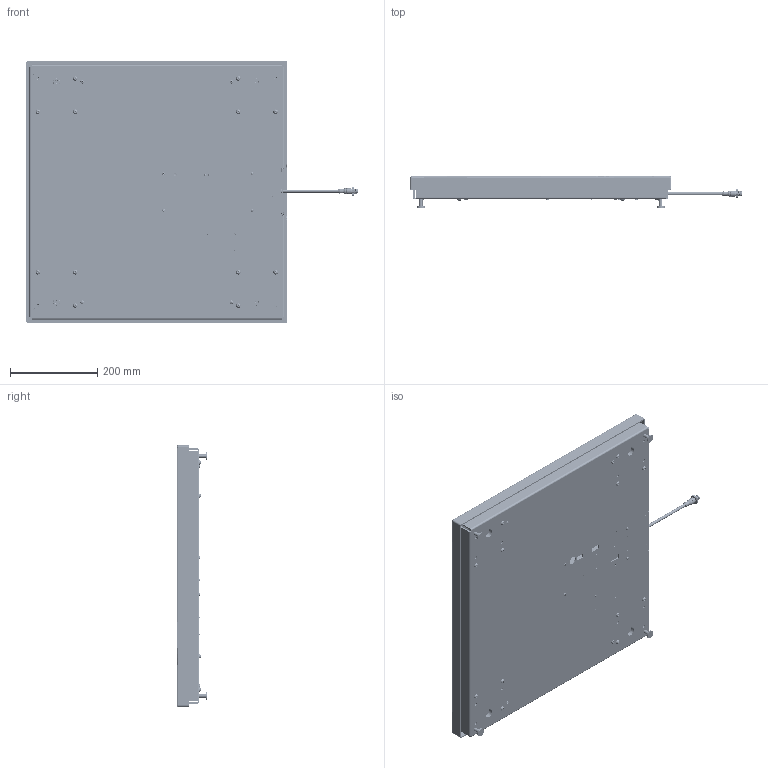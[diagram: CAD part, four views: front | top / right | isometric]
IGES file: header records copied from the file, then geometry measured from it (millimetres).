
Start section: SolidWorks IGES file using analytic representation for surfaces
Global section: file name: C:\0_Work\SolidWorks\~0_E-Scales\24x24\HI2424SBD-1.3K.IGS; native system: SolidWorks 2017; preprocessor: SolidWorks 2017; author: vach01; date: 190815.132104; units: millimetre
Bounding box: 762.12 x 71.16 x 600 mm (x, y, z)
Surface area: 2077930.7 mm2 (no closed solid volume)
Topology: 0 solids, 0 shells, 12742 faces, 115625 edges, 115465 vertices
Faces by surface type: bspline 9325, revolution 3417
